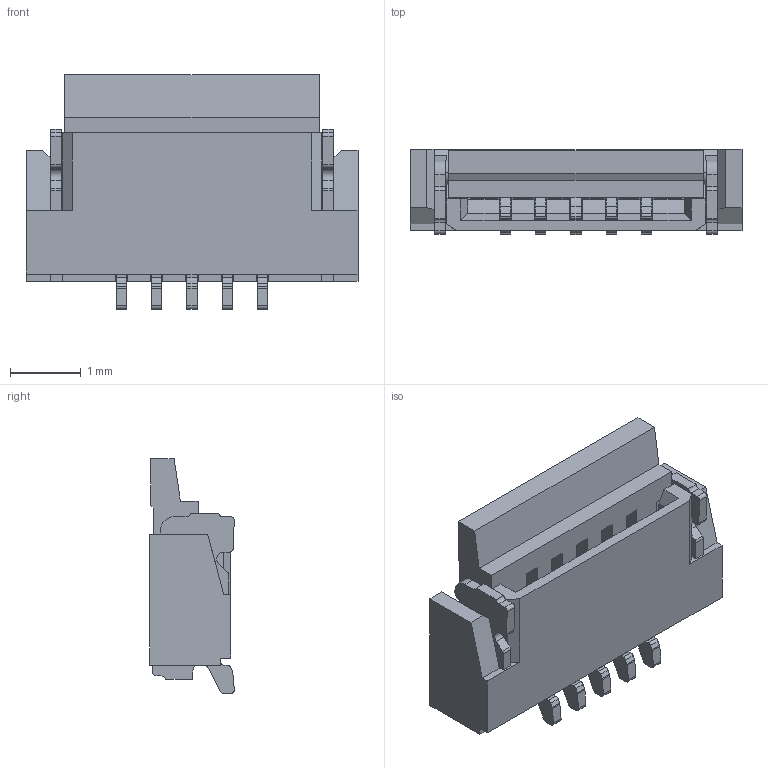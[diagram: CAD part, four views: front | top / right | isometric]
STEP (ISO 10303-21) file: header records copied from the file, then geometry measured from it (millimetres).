
FILE_DESCRIPTION((''),'2;1');
FILE_NAME('S-51536-020XX-XXX','2012-06-15T',('12114032'),(''),'PRO/ENGINEER BY PARAMETRIC TECHNOLOGY CORPORATION, 2009360','PRO/ENGINEER BY PARAMETRIC TECHNOLOGY CORPORATION, 2009360','');
FILE_SCHEMA(('CONFIG_CONTROL_DESIGN'));
Length unit declared in the file: millimetre
Products named in the file (1): S-51536-020XX-XXX
Bounding box: 4.7 x 1.2 x 3.32 mm (x, y, z)
Volume: 9 mm3; surface area: 87.2 mm2
Topology: 1 solids, 1 shells, 544 faces, 1745 edges, 1144 vertices
Faces by surface type: plane 364, cylinder 180
Entity records: 19353 total; most frequent: ORIENTED_EDGE 3490, CARTESIAN_POINT 3477, DIRECTION 3231, EDGE_CURVE 1745, VECTOR 1331, LINE 1331, VERTEX_POINT 1144, AXIS2_PLACEMENT_3D 950
